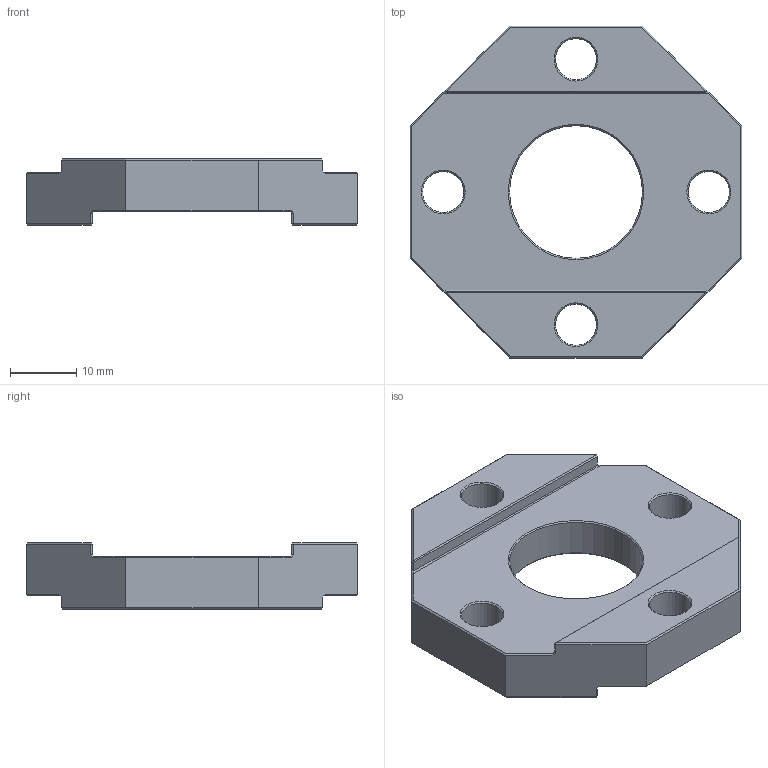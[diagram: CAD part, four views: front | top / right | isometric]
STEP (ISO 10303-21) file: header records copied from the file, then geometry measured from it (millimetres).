
FILE_DESCRIPTION (( 'STEP AP214' ), '1' );
FILE_NAME ('SMBA3030.STEP', '2023-02-22T08:31:27', ( 'Windows User' ), ( 'P R C' ), 'SwSTEP 2.0', 'SolidWorks 2019', '' );
FILE_SCHEMA (( 'AUTOMOTIVE_DESIGN' ));
Length unit declared in the file: millimetre
Products named in the file (1): SMBA3030
Bounding box: 50 x 50 x 10 mm (x, y, z)
Volume: 11835.5 mm3; surface area: 5808.5 mm2
Topology: 1 solids, 1 shells, 104 faces, 230 edges, 128 vertices
Faces by surface type: plane 66, cone 20, cylinder 10, bspline 8
Entity records: 2784 total; most frequent: CARTESIAN_POINT 503, ORIENTED_EDGE 460, DIRECTION 448, EDGE_CURVE 230, LINE 174, VECTOR 174, AXIS2_PLACEMENT_3D 137, VERTEX_POINT 128
